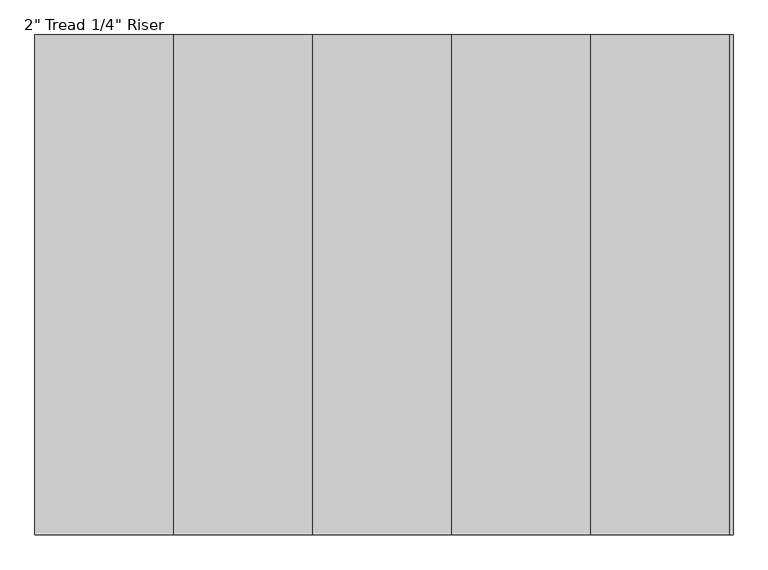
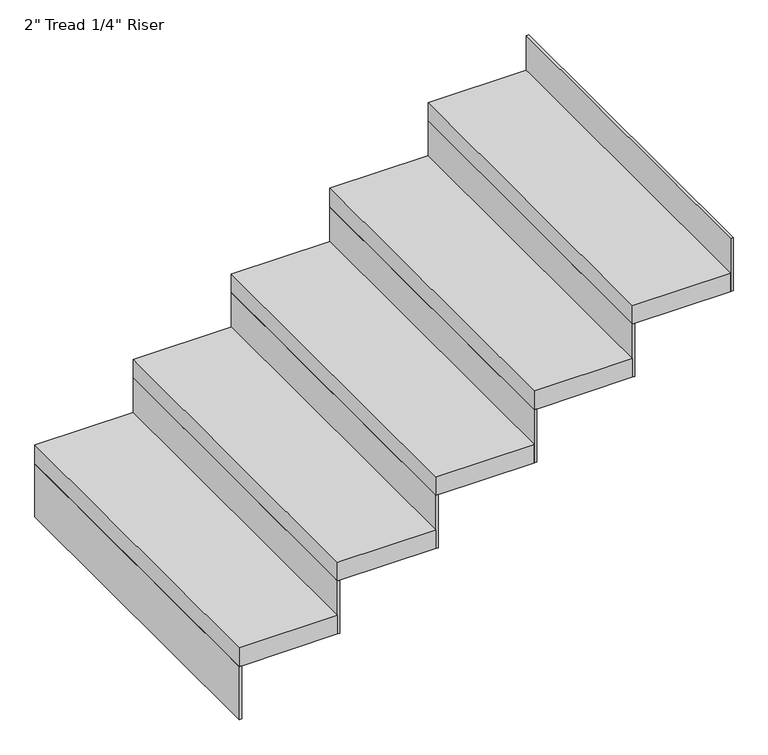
"""IFC4 building model written with IfcOpenShell, lengths in millimetres: stair flight geometry."""

import ifcopenshell
import ifcopenshell.guid

model = None  # the IFC model being written
_history = None  # IfcOwnerHistory: only IFC2X3 demands one
_inside = {}  # id of a spatial element -> (the spatial element, [elements in it])
_under = {}  # id of a project, library or spatial element -> (it, [spatial elements below it])
_declared = {}  # id of a project -> (the project, [libraries it declares])
_typed = {}  # id of a type object -> (the type object, [elements of that type])
_made_of = {}  # id of a material, layer set ... -> (it, [elements and type objects made of it])


def new_model(schema):
    """Start an empty IFC model of exactly this schema.

    Asked for "IFC4X3", IfcOpenShell would pick the latest addendum, in which some entities
    have other attributes; the version numbers below select the first issue.
    IFC2X3 requires an IfcOwnerHistory on every rooted entity: one is made here for all.
    """
    global model, _history
    if schema == "IFC4X3":
        model = ifcopenshell.file(schema_version=(4, 3, 0, 0))
    else:
        model = ifcopenshell.file(schema=schema)
    _inside.clear()
    _under.clear()
    _declared.clear()
    _typed.clear()
    _made_of.clear()
    _history = None
    if model.schema == "IFC2X3":
        org = make("IfcOrganization", Name="unknown")
        user = make(
            "IfcPersonAndOrganization",
            ThePerson=make("IfcPerson", FamilyName="unknown"),
            TheOrganization=org,
        )
        app = make(
            "IfcApplication",
            ApplicationDeveloper=org,
            Version="unknown",
            ApplicationFullName="unknown",
            ApplicationIdentifier="unknown",
        )
        _history = make(
            "IfcOwnerHistory",
            OwningUser=user,
            OwningApplication=app,
            ChangeAction="ADDED",
            CreationDate=0,
        )
    return model


def make(cls, **values):
    """One entity of the class cls with the attributes given. An attribute that is None is left unset."""
    return model.create_entity(
        cls, **{name: value for name, value in values.items() if value is not None}
    )


def rooted(cls, **values):
    """An entity with a GlobalId (a new one), such as an element, a storey or a relation."""
    return make(cls, GlobalId=ifcopenshell.guid.new(), OwnerHistory=_history, **values)


def si_unit(unit_type, name, prefix=None):
    """IfcSIUnit, for example si_unit("LENGTHUNIT", "METRE", prefix="MILLI")."""
    return make("IfcSIUnit", UnitType=unit_type, Prefix=prefix, Name=name)


def assignment(units):
    """IfcUnitAssignment: the units of a project."""
    return None if units is None else make("IfcUnitAssignment", Units=units)


def point(xyz):
    """IfcCartesianPoint."""
    return None if xyz is None else make("IfcCartesianPoint", Coordinates=xyz)


def direction(xyz):
    """IfcDirection."""
    return None if xyz is None else make("IfcDirection", DirectionRatios=xyz)


def frame(location, z_axis=None, x_axis=None):
    """IfcAxis2Placement3D, a coordinate frame: its origin and axes. An axis left out is left unset."""
    return make(
        "IfcAxis2Placement3D",
        Location=point(location),
        Axis=direction(z_axis),
        RefDirection=direction(x_axis),
    )


def origin():
    """The frame at (0, 0, 0) with its axes left unset."""
    return frame((0.0, 0.0, 0.0))


def place(relative_to, where):
    """IfcLocalPlacement: puts the frame where relative to a parent placement (None: the world)."""
    return make(
        "IfcLocalPlacement", PlacementRelTo=relative_to, RelativePlacement=where
    )


def context(
    kind, dimensions, precision=None, world=None, true_north=None, identifier=None
):
    """IfcGeometricRepresentationContext, for example the 3D "Model" context."""
    return make(
        "IfcGeometricRepresentationContext",
        ContextIdentifier=identifier,
        ContextType=kind,
        CoordinateSpaceDimension=dimensions,
        Precision=precision,
        WorldCoordinateSystem=world,
        TrueNorth=true_north,
    )


def project(units=None, contexts=None):
    """IfcProject with its units and contexts."""
    return rooted(
        "IfcProject",
        Name="project",
        RepresentationContexts=contexts,
        UnitsInContext=assignment(units),
    )


def spatial(cls, under=None, at=None, **own):
    """A site, building, storey or space (cls), placed at a placement, below another one or the project."""
    s = rooted(cls, ObjectPlacement=at, **own)
    if under is not None:
        _under.setdefault(under.id(), (under, []))[1].append(s)
    return s


def polyline(points):
    """IfcPolyline through the points."""
    return make("IfcPolyline", Points=[point(p) for p in points])


def outline(outer, holes=None, kind="AREA"):
    """IfcArbitraryClosedProfileDef: a profile drawn as a closed curve; with holes, ...WithVoids."""
    if holes is None:
        return make("IfcArbitraryClosedProfileDef", ProfileType=kind, OuterCurve=outer)
    return make(
        "IfcArbitraryProfileDefWithVoids",
        ProfileType=kind,
        OuterCurve=outer,
        InnerCurves=holes,
    )


def extrude(swept, where, along, depth):
    """IfcExtrudedAreaSolid: the profile swept, set in the frame where, extruded along a direction by depth."""
    return make(
        "IfcExtrudedAreaSolid",
        SweptArea=swept,
        Position=where,
        ExtrudedDirection=direction(along),
        Depth=depth,
    )


def shape(context_of_items, identifier, shape_type, items):
    """IfcShapeRepresentation: the items that make up one representation, for example the "Body"."""
    return make(
        "IfcShapeRepresentation",
        ContextOfItems=context_of_items,
        RepresentationIdentifier=identifier,
        RepresentationType=shape_type,
        Items=items,
    )


def source(mapping_origin, context_of_items, identifier, shape_type, items):
    """IfcRepresentationMap: a shape defined once, which mapped items show again and again."""
    return make(
        "IfcRepresentationMap",
        MappingOrigin=mapping_origin,
        MappedRepresentation=shape(context_of_items, identifier, shape_type, items),
    )


def transform(
    local_origin,
    x_axis=None,
    y_axis=None,
    z_axis=None,
    scale=None,
    scale2=None,
    scale3=None,
    uniform=True,
):
    """IfcCartesianTransformationOperator3D, or its non-uniform kind. x_axis, y_axis, z_axis: its Axis1, 2, 3."""
    if uniform:
        return make(
            "IfcCartesianTransformationOperator3D",
            Axis1=direction(x_axis),
            Axis2=direction(y_axis),
            LocalOrigin=point(local_origin),
            Scale=scale,
            Axis3=direction(z_axis),
        )
    return make(
        "IfcCartesianTransformationOperator3DnonUniform",
        Axis1=direction(x_axis),
        Axis2=direction(y_axis),
        LocalOrigin=point(local_origin),
        Scale=scale,
        Axis3=direction(z_axis),
        Scale2=scale2,
        Scale3=scale3,
    )


def mapped(mapping_source, mapping_target):
    """IfcMappedItem: shows the shape of a source again, moved by a transform."""
    return make(
        "IfcMappedItem", MappingSource=mapping_source, MappingTarget=mapping_target
    )


def made_of(thing, what):
    """Note that an element or type object is made of a material, layer set ...; save() writes the relation."""
    if what is not None:
        _made_of.setdefault(what.id(), (what, []))[1].append(thing)
    return thing


def element(
    cls,
    number,
    at=None,
    inside=None,
    cuts=None,
    type_object=None,
    material=None,
    context=None,
    identifier="Body",
    shape_type=None,
    held_by="IfcProductDefinitionShape",
    body=None,
    shapes=None,
    **own,
):
    """One element of the class cls, such as IfcWall. Its Tag is "e" and its number.

    at: its placement. inside: the storey or other place that contains it. cuts: it is an
    opening in that element (IfcRelVoidsElement). A single representation is given by context,
    identifier, shape_type and body (its items); several are given by shapes. held_by: the class
    of the entity that holds the representations. save() writes the other relations.
    """
    e = rooted(cls, Tag="e%d" % number, ObjectPlacement=at, **own)
    if body is not None:
        shapes = [shape(context, identifier, shape_type, body)]
    if shapes is not None:
        e.Representation = make(held_by, Representations=shapes)
    if inside is not None:
        _inside.setdefault(inside.id(), (inside, []))[1].append(e)
    if cuts is not None:
        rooted(
            "IfcRelVoidsElement", RelatingBuildingElement=cuts, RelatedOpeningElement=e
        )
    if type_object is not None:
        _typed.setdefault(type_object.id(), (type_object, []))[1].append(e)
    return made_of(e, material)


def aggregate(whole, parts):
    """IfcRelAggregates: a whole, such as a stair, and the parts it consists of."""
    return rooted("IfcRelAggregates", RelatingObject=whole, RelatedObjects=parts)


def save(model, path):
    """Write the relations noted so far, then the file.

    IfcRelAggregates (storeys below a building ...), IfcRelContainedInSpatialStructure (elements
    in a storey), IfcRelDefinesByType, IfcRelAssociatesMaterial and IfcRelDeclares: one each for
    every whole, place, type object, material and project.
    """
    for whole, parts in _under.values():
        aggregate(whole, parts)
    for where, things in _inside.values():
        rooted(
            "IfcRelContainedInSpatialStructure",
            RelatedElements=things,
            RelatingStructure=where,
        )
    for kind, things in _typed.values():
        rooted("IfcRelDefinesByType", RelatedObjects=things, RelatingType=kind)
    for what, things in _made_of.values():
        rooted("IfcRelAssociatesMaterial", RelatedObjects=things, RelatingMaterial=what)
    for by, libraries in _declared.values():
        rooted("IfcRelDeclares", RelatingContext=by, RelatedDefinitions=libraries)
    model.write(path)


def stair_flight_121c85e8(model_context):
    return source(origin(), model_context, "Body", "SweptSolid", [
        extrude(outline(polyline([(89352.2645262, 34007.0395941), (89345.9145262, 34007.0395941), (89345.9145262, 34921.4395941), (89352.2645262, 34921.4395941), (89352.2645262, 34007.0395941)])), frame((0.0, 0.0, 2126.3428571), z_axis=(0.0, 0.0, 1.0), x_axis=(1.0, 0.0, 0.0)), (0.0, 0.0, 1.0), 145.1428571),
        extrude(outline(polyline([(89599.9145262, 34921.4395941), (89599.9145262, 34007.0395941), (89345.9145262, 34007.0395941), (89345.9145262, 34921.4395941), (89599.9145262, 34921.4395941)])), frame((0.0, 0.0, 2271.4857143), z_axis=(0.0, 0.0, 1.0), x_axis=(1.0, 0.0, 0.0)), (0.0, 0.0, 1.0), 50.8),
        extrude(outline(polyline([(89606.2645262, 34007.0395941), (89599.9145262, 34007.0395941), (89599.9145262, 34921.4395941), (89606.2645262, 34921.4395941), (89606.2645262, 34007.0395941)])), frame((0.0, 0.0, 2271.4857143), z_axis=(0.0, 0.0, 1.0), x_axis=(1.0, 0.0, 0.0)), (0.0, 0.0, 1.0), 145.1428571),
        extrude(outline(polyline([(89853.9145262, 34921.4395941), (89853.9145262, 34007.0395941), (89599.9145262, 34007.0395941), (89599.9145262, 34921.4395941), (89853.9145262, 34921.4395941)])), frame((0.0, 0.0, 2416.6285714), z_axis=(0.0, 0.0, 1.0), x_axis=(1.0, 0.0, 0.0)), (0.0, 0.0, 1.0), 50.8),
        extrude(outline(polyline([(89860.2645262, 34007.0395941), (89853.9145262, 34007.0395941), (89853.9145262, 34921.4395941), (89860.2645262, 34921.4395941), (89860.2645262, 34007.0395941)])), frame((0.0, 0.0, 2416.6285714), z_axis=(0.0, 0.0, 1.0), x_axis=(1.0, 0.0, 0.0)), (0.0, 0.0, 1.0), 145.1428571),
        extrude(outline(polyline([(90107.9145262, 34921.4395941), (90107.9145262, 34007.0395941), (89853.9145262, 34007.0395941), (89853.9145262, 34921.4395941), (90107.9145262, 34921.4395941)])), frame((0.0, 0.0, 2561.7714286), z_axis=(0.0, 0.0, 1.0), x_axis=(1.0, 0.0, 0.0)), (0.0, 0.0, 1.0), 50.8),
        extrude(outline(polyline([(90114.2645262, 34007.0395941), (90107.9145262, 34007.0395941), (90107.9145262, 34921.4395941), (90114.2645262, 34921.4395941), (90114.2645262, 34007.0395941)])), frame((0.0, 0.0, 2561.7714286), z_axis=(0.0, 0.0, 1.0), x_axis=(1.0, 0.0, 0.0)), (0.0, 0.0, 1.0), 145.1428571),
        extrude(outline(polyline([(90361.9145262, 34921.4395941), (90361.9145262, 34007.0395941), (90107.9145262, 34007.0395941), (90107.9145262, 34921.4395941), (90361.9145262, 34921.4395941)])), frame((0.0, 0.0, 2706.9142857), z_axis=(0.0, 0.0, 1.0), x_axis=(1.0, 0.0, 0.0)), (0.0, 0.0, 1.0), 50.8),
        extrude(outline(polyline([(90368.2645262, 34007.0395941), (90361.9145262, 34007.0395941), (90361.9145262, 34921.4395941), (90368.2645262, 34921.4395941), (90368.2645262, 34007.0395941)])), frame((0.0, 0.0, 2706.9142857), z_axis=(0.0, 0.0, 1.0), x_axis=(1.0, 0.0, 0.0)), (0.0, 0.0, 1.0), 145.1428571),
        extrude(outline(polyline([(90622.2645262, 34007.0395941), (90615.9145262, 34007.0395941), (90615.9145262, 34921.4395941), (90622.2645262, 34921.4395941), (90622.2645262, 34007.0395941)])), frame((0.0, 0.0, 2852.0571429), z_axis=(0.0, 0.0, 1.0), x_axis=(1.0, 0.0, 0.0)), (0.0, 0.0, 1.0), 145.1428571),
        extrude(outline(polyline([(90615.9145262, 34921.4395941), (90615.9145262, 34007.0395941), (90361.9145262, 34007.0395941), (90361.9145262, 34921.4395941), (90615.9145262, 34921.4395941)])), frame((0.0, 0.0, 2852.0571429), z_axis=(0.0, 0.0, 1.0), x_axis=(1.0, 0.0, 0.0)), (0.0, 0.0, 1.0), 50.8),
    ])


if __name__ == "__main__":
    model = new_model("IFC4")
    model_context = context("Model", 3, world=origin())
    ifc_project = project(units=[si_unit("LENGTHUNIT", "METRE", prefix="MILLI")], contexts=[model_context])
    site = spatial("IfcSite", under=ifc_project)
    building = spatial("IfcBuilding", under=site)
    placement = place(None, origin())
    stair_flight_shape = stair_flight_121c85e8(model_context)
    element("IfcStairFlight", 1, ObjectType="2\" Tread 1/4\" Riser", at=placement, inside=building, context=model_context, shape_type="MappedRepresentation", body=[
        mapped(stair_flight_shape, transform((0.0, 0.0, 0.0), x_axis=(1.0, 0.0, 0.0), y_axis=(0.0, 1.0, 0.0), z_axis=(0.0, 0.0, 1.0))),
    ])
    save(model, "model.ifc")
